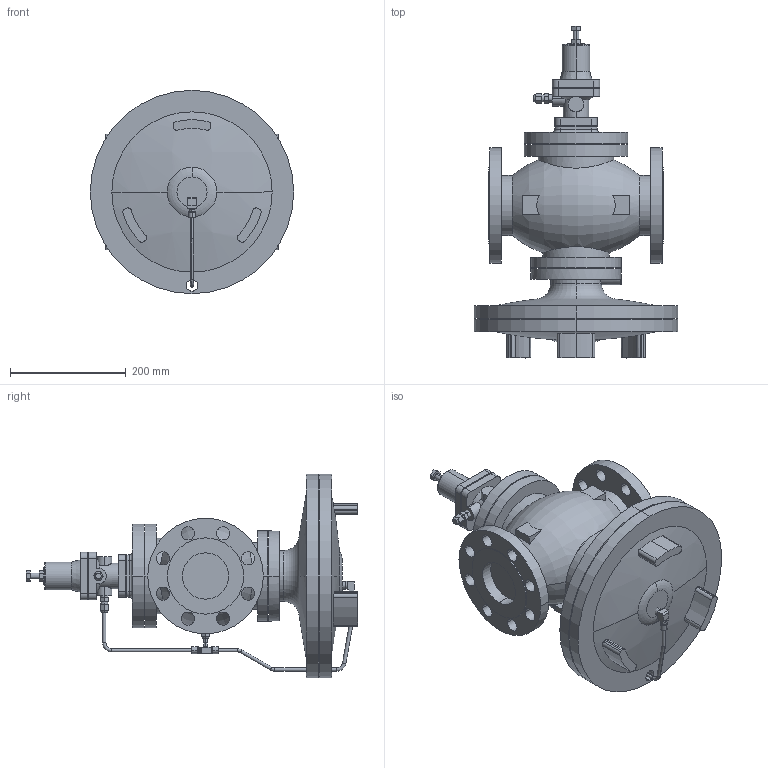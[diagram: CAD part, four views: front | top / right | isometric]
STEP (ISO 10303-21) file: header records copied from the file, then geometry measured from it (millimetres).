
FILE_DESCRIPTION (( 'STEP AP203' ), '1' );
FILE_NAME ('GPR-2000 JIS20K 80A.STEP', '2025-12-05T04:00:13', ( '' ), ( '' ), 'SwSTEP 2.0', 'SolidWorks 2024', '' );
FILE_SCHEMA (( 'CONFIG_CONTROL_DESIGN' ));
Length unit declared in the file: millimetre
Products named in the file (8): Joint; Elbow; GP-2000 Pipe A 80A; Pipe C 80A; Tee; GPR-2000 JIS20K 80A; GPR-2000 Body Assy EN PN25 80A; Pipe B 80A
Assembly tree (9 placements, depth 2):
  GPR-2000 JIS20K 80A
    GPR-2000 Body Assy EN PN25 80A
    Tee
    Joint  x3
    Pipe B 80A
    GP-2000 Pipe A 80A
    Elbow
    Pipe C 80A
Bounding box: 352 x 574.7 x 352 mm (x, y, z)
Volume: 13765324.7 mm3; surface area: 817345.2 mm2
Topology: 9 solids, 9 shells, 442 faces, 1083 edges, 715 vertices
Faces by surface type: cylinder 199, plane 192, cone 25, torus 22, sphere 4
Entity records: 13844 total; most frequent: CARTESIAN_POINT 3364, DIRECTION 2124, ORIENTED_EDGE 1898, EDGE_CURVE 949, AXIS2_PLACEMENT_3D 839, VERTEX_POINT 619, EDGE_LOOP 484, LINE 446
